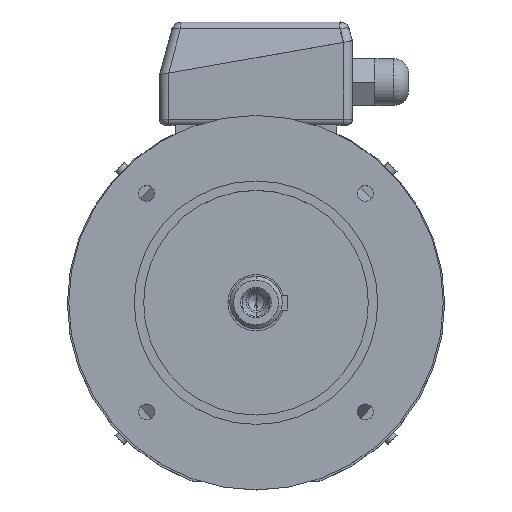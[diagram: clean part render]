
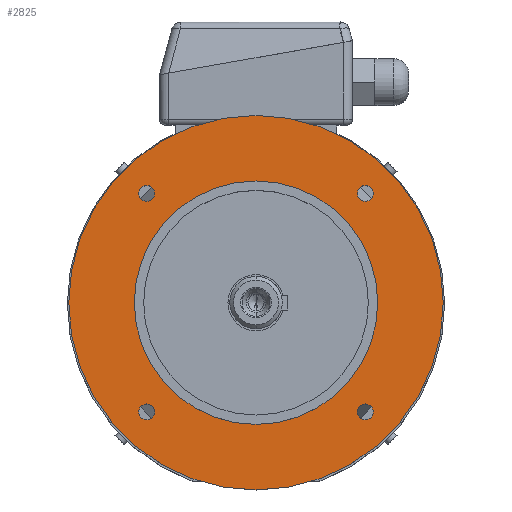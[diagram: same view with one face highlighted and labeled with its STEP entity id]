
A CAD part, top view. The second image highlights one B-rep face of the part: STEP entity #2825.
In plain terms, the highlighted planar face has unit normal (0, 0, 1).
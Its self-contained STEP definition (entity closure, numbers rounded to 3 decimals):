
#340 = CIRCLE ( 'NONE', #342, 100. ) ;
#342 = AXIS2_PLACEMENT_3D ( 'NONE', #343, #344, #345 ) ;
#343 = CARTESIAN_POINT ( 'NONE',  ( 0., 0., 45. ) ) ;
#344 = DIRECTION ( 'NONE',  ( 0., 0., -1. ) ) ;
#345 = DIRECTION ( 'NONE',  ( 0., 1., 0. ) ) ;
#1152 = CIRCLE ( 'NONE', #1153, 4.25 ) ;
#1153 = AXIS2_PLACEMENT_3D ( 'NONE', #1154, #1155, #1156 ) ;
#1154 = CARTESIAN_POINT ( 'NONE',  ( 58.336, -58.336, 45. ) ) ;
#1155 = DIRECTION ( 'NONE',  ( 0., 0., 1. ) ) ;
#1156 = DIRECTION ( 'NONE',  ( 1., 0., 0. ) ) ;
#2056 = ORIENTED_EDGE ( 'NONE', *, *, #3288, .F. ) ;
#2168 = EDGE_CURVE ( 'NONE', #3237, #3509, #5691, .T. ) ;
#2173 = VERTEX_POINT ( 'NONE', #5710 ) ;
#2227 = EDGE_CURVE ( 'NONE', #2435, #2173, #5833, .T. ) ;
#2251 = ORIENTED_EDGE ( 'NONE', *, *, #2168, .F. ) ;
#2375 = EDGE_LOOP ( 'NONE', ( #2251, #2056 ) ) ;
#2434 = ORIENTED_EDGE ( 'NONE', *, *, #2227, .F. ) ;
#2435 = VERTEX_POINT ( 'NONE', #6229 ) ;
#2555 = EDGE_CURVE ( 'NONE', #2173, #2435, #6481, .T. ) ;
#2646 = ORIENTED_EDGE ( 'NONE', *, *, #2555, .F. ) ;
#2729 = VERTEX_POINT ( 'NONE', #6871 ) ;
#2771 = EDGE_LOOP ( 'NONE', ( #2646, #2434 ) ) ;
#2801 = VERTEX_POINT ( 'NONE', #6996 ) ;
#2825 = ADVANCED_FACE ( 'NONE', ( #7044, #7045, #7046, #7047, #7048, #7049 ), #7056, .T. ) ;
#2861 = EDGE_CURVE ( 'NONE', #2801, #3086, #7150, .T. ) ;
#2921 = EDGE_CURVE ( 'NONE', #3086, #2801, #7253, .T. ) ;
#3086 = VERTEX_POINT ( 'NONE', #7585 ) ;
#3175 = ORIENTED_EDGE ( 'NONE', *, *, #2921, .T. ) ;
#3223 = VERTEX_POINT ( 'NONE', #8082 ) ;
#3237 = VERTEX_POINT ( 'NONE', #8174 ) ;
#3278 = EDGE_CURVE ( 'NONE', #3495, #3223, #8337, .T. ) ;
#3288 = EDGE_CURVE ( 'NONE', #3509, #3237, #8380, .T. ) ;
#3308 = ORIENTED_EDGE ( 'NONE', *, *, #2861, .T. ) ;
#3482 = EDGE_LOOP ( 'NONE', ( #3308, #3175 ) ) ;
#3495 = VERTEX_POINT ( 'NONE', #9230 ) ;
#3509 = VERTEX_POINT ( 'NONE', #9276 ) ;
#3529 = ORIENTED_EDGE ( 'NONE', *, *, #3278, .F. ) ;
#3649 = EDGE_CURVE ( 'NONE', #3223, #3495, #9895, .T. ) ;
#3746 = ORIENTED_EDGE ( 'NONE', *, *, #3649, .F. ) ;
#3866 = EDGE_LOOP ( 'NONE', ( #3746, #3529 ) ) ;
#3927 = ORIENTED_EDGE ( 'NONE', *, *, #9197, .F. ) ;
#4080 = EDGE_CURVE ( 'NONE', #2729, #6195, #10742, .T. ) ;
#4492 = ORIENTED_EDGE ( 'NONE', *, *, #4080, .F. ) ;
#5048 = EDGE_LOOP ( 'NONE', ( #4492, #3927 ) ) ;
#5691 = CIRCLE ( 'NONE', #5692, 4.25 ) ;
#5692 = AXIS2_PLACEMENT_3D ( 'NONE', #5693, #5694, #5695 ) ;
#5693 = CARTESIAN_POINT ( 'NONE',  ( -58.336, -58.336, 45. ) ) ;
#5694 = DIRECTION ( 'NONE',  ( 0., 0., 1. ) ) ;
#5695 = DIRECTION ( 'NONE',  ( 1., 0., 0. ) ) ;
#5710 = CARTESIAN_POINT ( 'NONE',  ( -54.086, 58.336, 45. ) ) ;
#5833 = CIRCLE ( 'NONE', #5834, 4.25 ) ;
#5834 = AXIS2_PLACEMENT_3D ( 'NONE', #5835, #5836, #5837 ) ;
#5835 = CARTESIAN_POINT ( 'NONE',  ( -58.336, 58.336, 45. ) ) ;
#5836 = DIRECTION ( 'NONE',  ( 0., 0., 1. ) ) ;
#5837 = DIRECTION ( 'NONE',  ( 1., 0., 0. ) ) ;
#6195 = VERTEX_POINT ( 'NONE', #11729 ) ;
#6229 = CARTESIAN_POINT ( 'NONE',  ( -62.586, 58.336, 45. ) ) ;
#6334 = VERTEX_POINT ( 'NONE', #11791 ) ;
#6481 = CIRCLE ( 'NONE', #6482, 4.25 ) ;
#6482 = AXIS2_PLACEMENT_3D ( 'NONE', #6483, #6484, #6485 ) ;
#6483 = CARTESIAN_POINT ( 'NONE',  ( -58.336, 58.336, 45. ) ) ;
#6484 = DIRECTION ( 'NONE',  ( 0., 0., 1. ) ) ;
#6485 = DIRECTION ( 'NONE',  ( 1., 0., 0. ) ) ;
#6580 = VERTEX_POINT ( 'NONE', #11916 ) ;
#6824 = EDGE_CURVE ( 'NONE', #6580, #6334, #12042, .T. ) ;
#6871 = CARTESIAN_POINT ( 'NONE',  ( 62.586, -58.336, 45. ) ) ;
#6996 = CARTESIAN_POINT ( 'NONE',  ( 0., 65., 45. ) ) ;
#7044 = FACE_BOUND ( 'NONE', #2771, .T. ) ;
#7045 = FACE_BOUND ( 'NONE', #2375, .T. ) ;
#7046 = FACE_BOUND ( 'NONE', #5048, .T. ) ;
#7047 = FACE_BOUND ( 'NONE', #3866, .T. ) ;
#7048 = FACE_BOUND ( 'NONE', #3482, .T. ) ;
#7049 = FACE_OUTER_BOUND ( 'NONE', #10228, .T. ) ;
#7056 = PLANE ( 'NONE',  #7057 ) ;
#7057 = AXIS2_PLACEMENT_3D ( 'NONE', #7058, #7059, #7060 ) ;
#7058 = CARTESIAN_POINT ( 'NONE',  ( 0., 100., 45. ) ) ;
#7059 = DIRECTION ( 'NONE',  ( 0., 0., 1. ) ) ;
#7060 = DIRECTION ( 'NONE',  ( 0., -1., 0. ) ) ;
#7150 = CIRCLE ( 'NONE', #7151, 65. ) ;
#7151 = AXIS2_PLACEMENT_3D ( 'NONE', #7152, #7153, #7154 ) ;
#7152 = CARTESIAN_POINT ( 'NONE',  ( 0., 0., 45. ) ) ;
#7153 = DIRECTION ( 'NONE',  ( 0., 0., -1. ) ) ;
#7154 = DIRECTION ( 'NONE',  ( 0., 1., 0. ) ) ;
#7253 = CIRCLE ( 'NONE', #7254, 65. ) ;
#7254 = AXIS2_PLACEMENT_3D ( 'NONE', #7255, #7256, #7257 ) ;
#7255 = CARTESIAN_POINT ( 'NONE',  ( 0., 0., 45. ) ) ;
#7256 = DIRECTION ( 'NONE',  ( 0., 0., -1. ) ) ;
#7257 = DIRECTION ( 'NONE',  ( 0., 1., 0. ) ) ;
#7585 = CARTESIAN_POINT ( 'NONE',  ( 0., -65., 45. ) ) ;
#8082 = CARTESIAN_POINT ( 'NONE',  ( 62.586, 58.336, 45. ) ) ;
#8174 = CARTESIAN_POINT ( 'NONE',  ( -54.086, -58.336, 45. ) ) ;
#8337 = CIRCLE ( 'NONE', #8338, 4.25 ) ;
#8338 = AXIS2_PLACEMENT_3D ( 'NONE', #8339, #8340, #8341 ) ;
#8339 = CARTESIAN_POINT ( 'NONE',  ( 58.336, 58.336, 45. ) ) ;
#8340 = DIRECTION ( 'NONE',  ( 0., 0., 1. ) ) ;
#8341 = DIRECTION ( 'NONE',  ( 1., 0., 0. ) ) ;
#8380 = CIRCLE ( 'NONE', #8381, 4.25 ) ;
#8381 = AXIS2_PLACEMENT_3D ( 'NONE', #8382, #8386, #8387 ) ;
#8382 = CARTESIAN_POINT ( 'NONE',  ( -58.336, -58.336, 45. ) ) ;
#8386 = DIRECTION ( 'NONE',  ( 0., 0., 1. ) ) ;
#8387 = DIRECTION ( 'NONE',  ( 1., 0., 0. ) ) ;
#8673 = EDGE_CURVE ( 'NONE', #6334, #6580, #340, .T. ) ;
#9080 = ORIENTED_EDGE ( 'NONE', *, *, #8673, .F. ) ;
#9197 = EDGE_CURVE ( 'NONE', #6195, #2729, #1152, .T. ) ;
#9230 = CARTESIAN_POINT ( 'NONE',  ( 54.086, 58.336, 45. ) ) ;
#9276 = CARTESIAN_POINT ( 'NONE',  ( -62.586, -58.336, 45. ) ) ;
#9654 = ORIENTED_EDGE ( 'NONE', *, *, #6824, .F. ) ;
#9895 = CIRCLE ( 'NONE', #9896, 4.25 ) ;
#9896 = AXIS2_PLACEMENT_3D ( 'NONE', #9897, #9898, #9903 ) ;
#9897 = CARTESIAN_POINT ( 'NONE',  ( 58.336, 58.336, 45. ) ) ;
#9898 = DIRECTION ( 'NONE',  ( 0., 0., 1. ) ) ;
#9903 = DIRECTION ( 'NONE',  ( 1., 0., 0. ) ) ;
#10228 = EDGE_LOOP ( 'NONE', ( #9654, #9080 ) ) ;
#10742 = CIRCLE ( 'NONE', #10743, 4.25 ) ;
#10743 = AXIS2_PLACEMENT_3D ( 'NONE', #10744, #10745, #10746 ) ;
#10744 = CARTESIAN_POINT ( 'NONE',  ( 58.336, -58.336, 45. ) ) ;
#10745 = DIRECTION ( 'NONE',  ( 0., 0., 1. ) ) ;
#10746 = DIRECTION ( 'NONE',  ( 1., 0., 0. ) ) ;
#11729 = CARTESIAN_POINT ( 'NONE',  ( 54.086, -58.336, 45. ) ) ;
#11791 = CARTESIAN_POINT ( 'NONE',  ( 0., -100., 45. ) ) ;
#11916 = CARTESIAN_POINT ( 'NONE',  ( 0., 100., 45. ) ) ;
#12042 = CIRCLE ( 'NONE', #12043, 100. ) ;
#12043 = AXIS2_PLACEMENT_3D ( 'NONE', #12044, #12045, #12046 ) ;
#12044 = CARTESIAN_POINT ( 'NONE',  ( 0., 0., 45. ) ) ;
#12045 = DIRECTION ( 'NONE',  ( 0., 0., -1. ) ) ;
#12046 = DIRECTION ( 'NONE',  ( 0., 1., 0. ) ) ;
